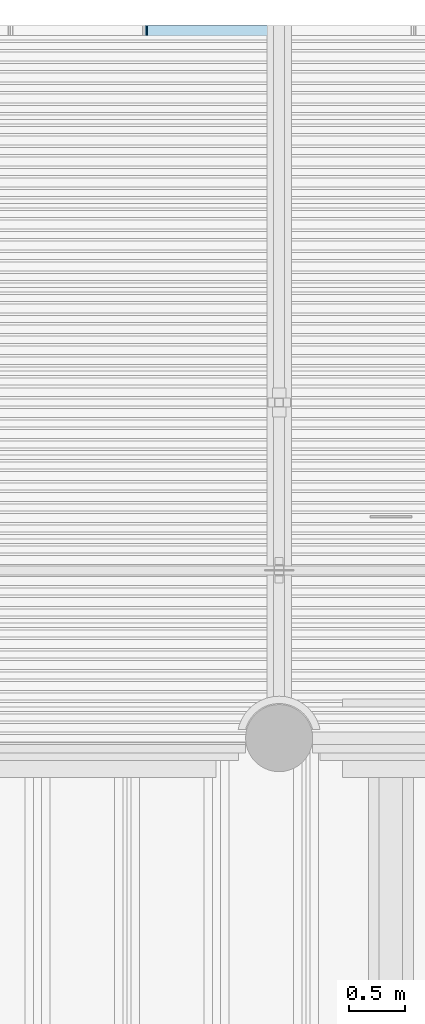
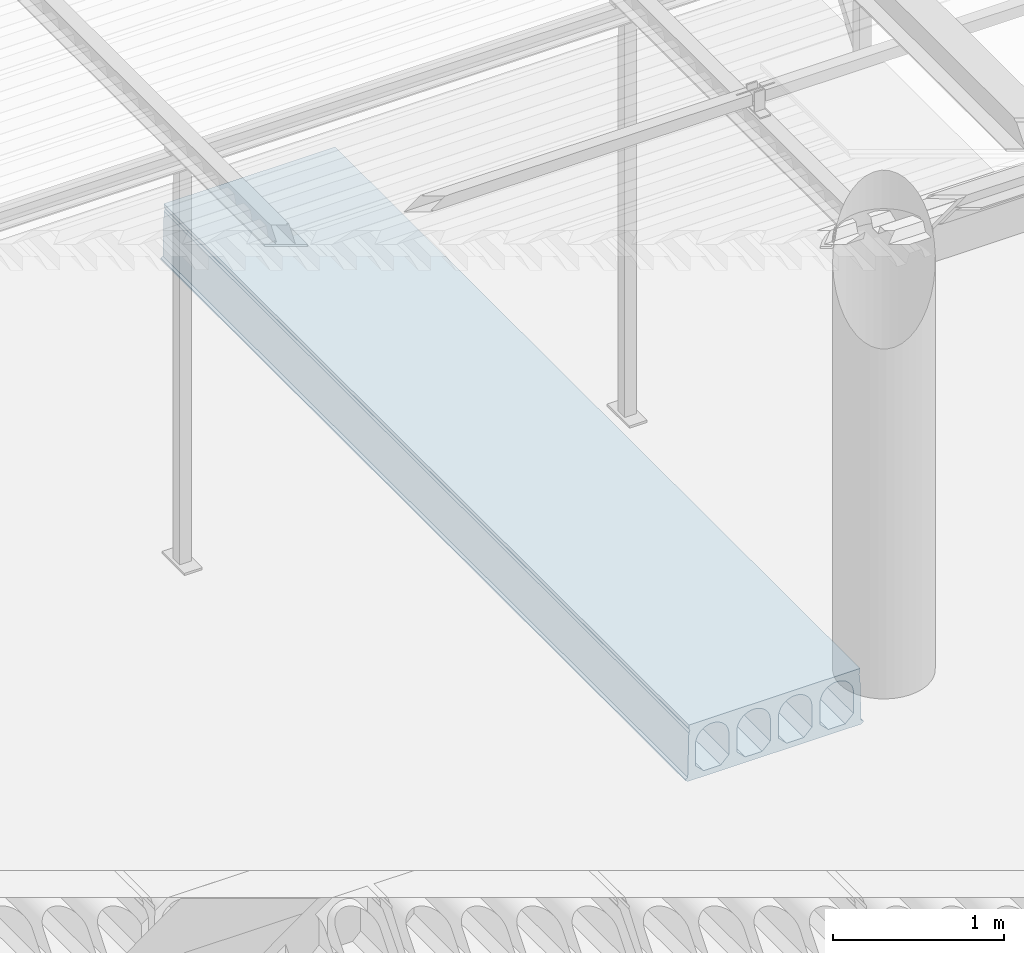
# One storey, part 93 of 98: 1 slab.
"""IFC2X3 building model written with IfcOpenShell, lengths in millimetres."""

import ifcopenshell
import ifcopenshell.guid

model = None  # the IFC model being written
_history = None  # IfcOwnerHistory: only IFC2X3 demands one
_inside = {}  # id of a spatial element -> (the spatial element, [elements in it])
_under = {}  # id of a project, library or spatial element -> (it, [spatial elements below it])
_declared = {}  # id of a project -> (the project, [libraries it declares])
_typed = {}  # id of a type object -> (the type object, [elements of that type])
_made_of = {}  # id of a material, layer set ... -> (it, [elements and type objects made of it])


def new_model(schema):
    """Start an empty IFC model of exactly this schema.

    Asked for "IFC4X3", IfcOpenShell would pick the latest addendum, in which some entities
    have other attributes; the version numbers below select the first issue.
    IFC2X3 requires an IfcOwnerHistory on every rooted entity: one is made here for all.
    """
    global model, _history
    if schema == "IFC4X3":
        model = ifcopenshell.file(schema_version=(4, 3, 0, 0))
    else:
        model = ifcopenshell.file(schema=schema)
    _inside.clear()
    _under.clear()
    _declared.clear()
    _typed.clear()
    _made_of.clear()
    _history = None
    if model.schema == "IFC2X3":
        org = make("IfcOrganization", Name="unknown")
        user = make(
            "IfcPersonAndOrganization",
            ThePerson=make("IfcPerson", FamilyName="unknown"),
            TheOrganization=org,
        )
        app = make(
            "IfcApplication",
            ApplicationDeveloper=org,
            Version="unknown",
            ApplicationFullName="unknown",
            ApplicationIdentifier="unknown",
        )
        _history = make(
            "IfcOwnerHistory",
            OwningUser=user,
            OwningApplication=app,
            ChangeAction="ADDED",
            CreationDate=0,
        )
    return model


def make(cls, **values):
    """One entity of the class cls with the attributes given. An attribute that is None is left unset."""
    return model.create_entity(
        cls, **{name: value for name, value in values.items() if value is not None}
    )


def entity(cls, *values):
    """Any entity or typed value of the class cls, its attributes in the order of the schema. None: left unset."""
    e = model.create_entity(cls)
    for i, value in enumerate(values):
        if value is not None:
            e[i] = value
    return e


def rooted(cls, **values):
    """An entity with a GlobalId (a new one), such as an element, a storey or a relation."""
    return make(cls, GlobalId=ifcopenshell.guid.new(), OwnerHistory=_history, **values)


def si_unit(unit_type, name, prefix=None):
    """IfcSIUnit, for example si_unit("LENGTHUNIT", "METRE", prefix="MILLI")."""
    return make("IfcSIUnit", UnitType=unit_type, Prefix=prefix, Name=name)


def converted_unit(unit_type, name, factor, base, dimensions=None, offset=None):
    """IfcConversionBasedUnit, such as the inch: factor (a typed value) times the base unit."""
    return make(
        "IfcConversionBasedUnit"
        if offset is None
        else "IfcConversionBasedUnitWithOffset",
        ConversionOffset=offset,
        Dimensions=None
        if dimensions is None
        else entity("IfcDimensionalExponents", *dimensions),
        UnitType=unit_type,
        Name=name,
        ConversionFactor=make(
            "IfcMeasureWithUnit", ValueComponent=factor, UnitComponent=base
        ),
    )


def derived_unit(unit_type, elements):
    """IfcDerivedUnit: a product of units, each with its exponent."""
    return make(
        "IfcDerivedUnit",
        Elements=[
            make("IfcDerivedUnitElement", Unit=unit, Exponent=power)
            for unit, power in elements
        ],
        UnitType=unit_type,
    )


def assignment(units):
    """IfcUnitAssignment: the units of a project."""
    return None if units is None else make("IfcUnitAssignment", Units=units)


def point(xyz):
    """IfcCartesianPoint."""
    return None if xyz is None else make("IfcCartesianPoint", Coordinates=xyz)


def direction(xyz):
    """IfcDirection."""
    return None if xyz is None else make("IfcDirection", DirectionRatios=xyz)


def frame(location, z_axis=None, x_axis=None):
    """IfcAxis2Placement3D, a coordinate frame: its origin and axes. An axis left out is left unset."""
    return make(
        "IfcAxis2Placement3D",
        Location=point(location),
        Axis=direction(z_axis),
        RefDirection=direction(x_axis),
    )


def origin_with_axes():
    """The frame at (0, 0, 0) with the z axis (0, 0, 1) and the x axis (1, 0, 0) written out."""
    return frame((0.0, 0.0, 0.0), z_axis=(0.0, 0.0, 1.0), x_axis=(1.0, 0.0, 0.0))


def place(relative_to, where):
    """IfcLocalPlacement: puts the frame where relative to a parent placement (None: the world)."""
    return make(
        "IfcLocalPlacement", PlacementRelTo=relative_to, RelativePlacement=where
    )


def context(
    kind, dimensions, precision=None, world=None, true_north=None, identifier=None
):
    """IfcGeometricRepresentationContext, for example the 3D "Model" context."""
    return make(
        "IfcGeometricRepresentationContext",
        ContextIdentifier=identifier,
        ContextType=kind,
        CoordinateSpaceDimension=dimensions,
        Precision=precision,
        WorldCoordinateSystem=world,
        TrueNorth=true_north,
    )


def subcontext(parent, identifier, kind, view, scale=None):
    """IfcGeometricRepresentationSubContext, for example "Body" below "Model"."""
    return make(
        "IfcGeometricRepresentationSubContext",
        ContextIdentifier=identifier,
        ContextType=kind,
        ParentContext=parent,
        TargetScale=scale,
        TargetView=view,
    )


def project(units=None, contexts=None):
    """IfcProject with its units and contexts."""
    return rooted(
        "IfcProject",
        Name="project",
        RepresentationContexts=contexts,
        UnitsInContext=assignment(units),
    )


def spatial(cls, under=None, at=None, **own):
    """A site, building, storey or space (cls), placed at a placement, below another one or the project."""
    s = rooted(cls, ObjectPlacement=at, **own)
    if under is not None:
        _under.setdefault(under.id(), (under, []))[1].append(s)
    return s


def faces_of(points, faces, orient=None, outer=None):
    """IfcFace entities. A face is a list of loops; a loop is a list of indices into points, from 0.

    orient and outer hold one flag for each loop. By default every Orientation is true, the
    first loop of a face is its IfcFaceOuterBound and the others are IfcFaceBound.
    """
    made = []
    for i, loops in enumerate(faces):
        bounds = []
        for j, loop in enumerate(loops):
            is_outer = j == 0 if outer is None else outer[i][j]
            bounds.append(
                make(
                    "IfcFaceOuterBound" if is_outer else "IfcFaceBound",
                    Bound=make("IfcPolyLoop", Polygon=[points[k] for k in loop]),
                    Orientation=True if orient is None else orient[i][j],
                )
            )
        made.append(make("IfcFace", Bounds=bounds))
    return made


def faceted_brep(points, faces, orient=None, outer=None, voids=None):
    """IfcFacetedBrep: a solid bounded by flat faces; with voids (closed shells), ...WithVoids."""
    shared = [point(p) for p in points]
    hull = make("IfcClosedShell", CfsFaces=faces_of(shared, faces, orient, outer))
    if voids is None:
        return make("IfcFacetedBrep", Outer=hull)
    return make(
        "IfcFacetedBrepWithVoids",
        Outer=hull,
        Voids=[
            make(cls, CfsFaces=faces_of(shared, fs, o, b)) for cls, fs, o, b in voids
        ],
    )


def shape(context_of_items, identifier, shape_type, items):
    """IfcShapeRepresentation: the items that make up one representation, for example the "Body"."""
    return make(
        "IfcShapeRepresentation",
        ContextOfItems=context_of_items,
        RepresentationIdentifier=identifier,
        RepresentationType=shape_type,
        Items=items,
    )


def made_of(thing, what):
    """Note that an element or type object is made of a material, layer set ...; save() writes the relation."""
    if what is not None:
        _made_of.setdefault(what.id(), (what, []))[1].append(thing)
    return thing


def type_object(cls, material=None, **own):
    """A type object (cls), such as IfcWallType, which elements share."""
    return made_of(rooted(cls, **own), material)


def element(
    cls,
    number,
    at=None,
    inside=None,
    cuts=None,
    type_object=None,
    material=None,
    context=None,
    identifier="Body",
    shape_type=None,
    held_by="IfcProductDefinitionShape",
    body=None,
    shapes=None,
    **own,
):
    """One element of the class cls, such as IfcWall. Its Tag is "e" and its number.

    at: its placement. inside: the storey or other place that contains it. cuts: it is an
    opening in that element (IfcRelVoidsElement). A single representation is given by context,
    identifier, shape_type and body (its items); several are given by shapes. held_by: the class
    of the entity that holds the representations. save() writes the other relations.
    """
    e = rooted(cls, Tag="e%d" % number, ObjectPlacement=at, **own)
    if body is not None:
        shapes = [shape(context, identifier, shape_type, body)]
    if shapes is not None:
        e.Representation = make(held_by, Representations=shapes)
    if inside is not None:
        _inside.setdefault(inside.id(), (inside, []))[1].append(e)
    if cuts is not None:
        rooted(
            "IfcRelVoidsElement", RelatingBuildingElement=cuts, RelatedOpeningElement=e
        )
    if type_object is not None:
        _typed.setdefault(type_object.id(), (type_object, []))[1].append(e)
    return made_of(e, material)


def aggregate(whole, parts):
    """IfcRelAggregates: a whole, such as a stair, and the parts it consists of."""
    return rooted("IfcRelAggregates", RelatingObject=whole, RelatedObjects=parts)


def save(model, path):
    """Write the relations noted so far, then the file.

    IfcRelAggregates (storeys below a building ...), IfcRelContainedInSpatialStructure (elements
    in a storey), IfcRelDefinesByType, IfcRelAssociatesMaterial and IfcRelDeclares: one each for
    every whole, place, type object, material and project.
    """
    for whole, parts in _under.values():
        aggregate(whole, parts)
    for where, things in _inside.values():
        rooted(
            "IfcRelContainedInSpatialStructure",
            RelatedElements=things,
            RelatingStructure=where,
        )
    for kind, things in _typed.values():
        rooted("IfcRelDefinesByType", RelatedObjects=things, RelatingType=kind)
    for what, things in _made_of.values():
        rooted("IfcRelAssociatesMaterial", RelatedObjects=things, RelatingMaterial=what)
    for by, libraries in _declared.values():
        rooted("IfcRelDeclares", RelatingContext=by, RelatedDefinitions=libraries)
    model.write(path)


model = new_model("IFC2X3")

# Units and contexts
model_context = context("Model", 3, precision=0.01, world=frame((0.0, 4.29681676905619e-09, 0.0)), true_north=direction((4.01073788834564e-13, 1.0)))
plan_context = context("Plan", 3, precision=0.01, world=frame((0.0, 4.29681676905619e-09, 0.0)), true_north=direction((4.01073788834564e-13, 1.0)))
body_context = subcontext(model_context, "Body", "Model", "MODEL_VIEW")
ifc_project = project(units=[converted_unit("PLANEANGLEUNIT", "DEGREE", entity("IfcPositiveLengthMeasure", 0.0174532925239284), si_unit("PLANEANGLEUNIT", "RADIAN"), dimensions=[0, 0, 0, 0, 0, 0, 0]), si_unit("AREAUNIT", "SQUARE_METRE"), si_unit("LENGTHUNIT", "METRE", prefix="MILLI"), si_unit("MASSUNIT", "GRAM", prefix="KILO"), si_unit("POWERUNIT", "WATT"), si_unit("PRESSUREUNIT", "PASCAL"), si_unit("FORCEUNIT", "NEWTON", prefix="KILO"), si_unit("ELECTRICCURRENTUNIT", "AMPERE"), si_unit("THERMODYNAMICTEMPERATUREUNIT", "DEGREE_CELSIUS"), si_unit("TIMEUNIT", "SECOND"), si_unit("VOLUMEUNIT", "CUBIC_METRE"), derived_unit("LINEARVELOCITYUNIT", [(si_unit("LENGTHUNIT", "METRE"), 1), (si_unit("TIMEUNIT", "SECOND"), -1)]), derived_unit("VOLUMETRICFLOWRATEUNIT", [(si_unit("VOLUMEUNIT", "CUBIC_METRE"), 1), (si_unit("TIMEUNIT", "SECOND"), -1)]), derived_unit("THERMALTRANSMITTANCEUNIT", [(si_unit("POWERUNIT", "WATT"), 1), (si_unit("THERMODYNAMICTEMPERATUREUNIT", "KELVIN"), -1), (si_unit("AREAUNIT", "SQUARE_METRE"), -1)])], contexts=[model_context, plan_context])

# Site, building, storey
site_placement = place(None, frame((0.0, -4.29681676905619e-09, 0.0), z_axis=(0.0, 0.0, 1.0), x_axis=(1.0, 0.0, 0.0)))
site = spatial("IfcSite", under=ifc_project, at=site_placement, Name="Gardermoen", CompositionType="ELEMENT")
building_placement = place(site_placement, frame((0.0, 4.29681676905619e-09, 0.0), z_axis=(0.0, 0.0, 1.0), x_axis=(1.0, 0.0, 0.0)))
building = spatial("IfcBuilding", under=site, at=building_placement, Name="TS", CompositionType="ELEMENT")
storey_placement = place(building_placement, origin_with_axes())
storey = spatial("IfcBuildingStorey", under=building, at=storey_placement, Name="D", CompositionType="ELEMENT", Elevation=0.0)

# Slab
slab_type = type_object("IfcSlabType", Name="HD400", PredefinedType="NOTDEFINED")
slab_placement = place(storey_placement, frame((528400.000234, 423259.995625, 203600.0), z_axis=(0.0, 0.0, 1.0), x_axis=(0.0, -1.0, 0.0)))
element("IfcSlab", 1, at=slab_placement, inside=storey, type_object=slab_type, Name="HULLDEKKE", ObjectType="HD400", PredefinedType="FLOOR", context=body_context, shape_type="Brep", body=[
    faceted_brep([(2389.80417159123, -577.5, 175.0), (2389.80417159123, -577.5, 200.0), (8520.00875000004, -577.5, 200.0), (8520.00875000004, -577.5, 175.0), (2389.80417159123, -570.0, 160.0), (8520.00875000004, -570.0, 160.0), (2389.80417159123, -577.5, 145.0), (8520.00875000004, -577.5, 145.0), (2389.80417159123, -585.0, -170.0), (8520.00875000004, -585.0, -170.0), (2389.80417159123, -600.0, -180.0), (8520.00875000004, -600.0, -180.0), (2389.80417159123, -600.0, -190.0), (8520.00875000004, -600.0, -190.0), (2389.80417159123, -583.380004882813, -200.0), (8520.00875000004, -583.380004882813, -200.0), (2389.80417159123, 583.380004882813, -200.0), (8520.00875000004, 583.380004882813, -200.0), (2389.80417159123, 600.0, -190.0), (8520.00875000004, 600.0, -190.0), (2389.80417159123, 600.0, -180.0), (8520.00875000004, 600.0, -180.0), (2389.80417159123, 585.0, -170.0), (8520.00875000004, 585.0, -170.0), (2389.80417159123, 577.5, 145.0), (8520.00875000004, 577.5, 145.0), (2389.80417159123, 570.0, 160.0), (8520.00875000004, 570.0, 160.0), (2389.80417159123, 577.5, 175.0), (8520.00875000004, 577.5, 175.0), (2389.80417159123, 577.5, 200.0), (8520.00875000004, 577.5, 200.0), (2389.80417159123, -362.5, -160.0), (2389.80417159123, -307.5, -105.0), (8520.00875000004, -307.5, -105.0), (8520.00875000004, -362.5, -160.0), (2389.80417159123, -307.5, 47.5), (8520.00875000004, -307.5, 47.5), (2389.80417159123, -307.884244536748, 56.7901763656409), (8520.00875000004, -307.884244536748, 56.7901763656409), (2389.80417159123, -309.034353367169, 66.0168914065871), (8520.00875000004, -309.034353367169, 66.0168914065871), (2389.80417159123, -310.942470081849, 75.1171173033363), (8520.00875000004, -310.942470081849, 75.1171173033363), (2389.80417159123, -313.595560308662, 84.028690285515), (8520.00875000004, -313.595560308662, 84.028690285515), (2389.80417159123, -316.975500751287, 92.6907352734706), (8520.00875000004, -316.975500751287, 92.6907352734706), (2389.80417159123, -321.059202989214, 101.044081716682), (8520.00875000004, -321.059202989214, 101.044081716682), (2389.80417159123, -325.818771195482, 109.031667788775), (8520.00875000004, -325.818771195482, 109.031667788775), (2389.80417159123, -331.221692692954, 116.598930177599), (8520.00875000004, -331.221692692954, 116.598930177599), (2389.80417159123, -337.231060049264, 123.694176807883), (8520.00875000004, -337.231060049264, 123.694176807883), (2389.80417159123, -343.805823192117, 130.268939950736), (8520.00875000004, -343.805823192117, 130.268939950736), (2389.80417159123, -350.901069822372, 136.278307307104), (8520.00875000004, -350.901069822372, 136.278307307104), (2389.80417159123, -358.468332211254, 141.681228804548), (8520.00875000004, -358.468332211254, 141.681228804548), (2389.80417159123, -366.455918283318, 146.440797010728), (8520.00875000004, -366.455918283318, 146.440797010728), (2389.80417159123, -374.809264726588, 150.524499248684), (8520.00875000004, -374.809264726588, 150.524499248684), (2389.80417159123, -383.471309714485, 153.904439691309), (8520.00875000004, -383.471309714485, 153.904439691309), (2389.80417159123, -392.382882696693, 156.55752991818), (8520.00875000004, -392.382882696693, 156.55752991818), (2389.80417159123, -401.483108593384, 158.465646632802), (8520.00875000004, -401.483108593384, 158.465646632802), (2389.80417159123, -410.709823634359, 159.615755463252), (8520.00875000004, -410.709823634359, 159.615755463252), (2389.80417159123, -420.0, 160.0), (8520.00875000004, -420.0, 160.0), (2389.80417159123, -429.290176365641, 159.615755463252), (8520.00875000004, -429.290176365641, 159.615755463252), (2389.80417159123, -438.516891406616, 158.465646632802), (8520.00875000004, -438.516891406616, 158.465646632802), (2389.80417159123, -447.617117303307, 156.55752991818), (8520.00875000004, -447.617117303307, 156.55752991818), (2389.80417159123, -456.528690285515, 153.904439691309), (8520.00875000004, -456.528690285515, 153.904439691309), (2389.80417159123, -465.190735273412, 150.524499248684), (8520.00875000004, -465.190735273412, 150.524499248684), (2389.80417159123, -473.544081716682, 146.440797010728), (8520.00875000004, -473.544081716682, 146.440797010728), (2389.80417159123, -481.531667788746, 141.681228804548), (8520.00875000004, -481.531667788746, 141.681228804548), (2389.80417159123, -489.098930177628, 136.278307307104), (8520.00875000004, -489.098930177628, 136.278307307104), (2389.80417159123, -496.194176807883, 130.268939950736), (8520.00875000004, -496.194176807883, 130.268939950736), (2389.80417159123, -502.768939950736, 123.694176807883), (8520.00875000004, -502.768939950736, 123.694176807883), (2389.80417159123, -508.778307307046, 116.598930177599), (8520.00875000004, -508.778307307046, 116.598930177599), (2389.80417159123, -514.181228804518, 109.031667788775), (8520.00875000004, -514.181228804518, 109.031667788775), (2389.80417159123, -518.940797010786, 101.044081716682), (8520.00875000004, -518.940797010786, 101.044081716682), (2389.80417159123, -523.024499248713, 92.6907352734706), (8520.00875000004, -523.024499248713, 92.6907352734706), (2389.80417159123, -526.404439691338, 84.028690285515), (8520.00875000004, -526.404439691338, 84.028690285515), (2389.80417159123, -529.057529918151, 75.1171173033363), (8520.00875000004, -529.057529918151, 75.1171173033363), (2389.80417159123, -530.965646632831, 66.0168914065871), (8520.00875000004, -530.965646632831, 66.0168914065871), (2389.80417159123, -532.115755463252, 56.7901763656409), (8520.00875000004, -532.115755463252, 56.7901763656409), (2389.80417159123, -532.5, 47.5), (8520.00875000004, -532.5, 47.5), (2389.80417159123, -532.5, -105.0), (8520.00875000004, -532.5, -105.0), (2389.80417159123, -477.5, -160.0), (8520.00875000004, -477.5, -160.0), (2389.80417159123, 197.5, -160.0), (2389.80417159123, 252.5, -105.0), (8520.00875000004, 252.5, -105.0), (8520.00875000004, 197.5, -160.0), (2389.80417159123, 252.5, 47.5), (8520.00875000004, 252.5, 47.5), (2389.80417159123, 252.115755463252, 56.7901763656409), (8520.00875000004, 252.115755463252, 56.7901763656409), (2389.80417159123, 250.965646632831, 66.0168914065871), (8520.00875000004, 250.965646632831, 66.0168914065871), (2389.80417159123, 249.057529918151, 75.1171173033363), (8520.00875000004, 249.057529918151, 75.1171173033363), (2389.80417159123, 246.404439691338, 84.028690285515), (8520.00875000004, 246.404439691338, 84.028690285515), (2389.80417159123, 243.024499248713, 92.6907352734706), (8520.00875000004, 243.024499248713, 92.6907352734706), (2389.80417159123, 238.940797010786, 101.044081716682), (8520.00875000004, 238.940797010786, 101.044081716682), (2389.80417159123, 234.181228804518, 109.031667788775), (8520.00875000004, 234.181228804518, 109.031667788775), (2389.80417159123, 228.778307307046, 116.598930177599), (8520.00875000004, 228.778307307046, 116.598930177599), (2389.80417159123, 222.768939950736, 123.694176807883), (8520.00875000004, 222.768939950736, 123.694176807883), (2389.80417159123, 216.194176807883, 130.268939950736), (8520.00875000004, 216.194176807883, 130.268939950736), (2389.80417159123, 209.098930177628, 136.278307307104), (8520.00875000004, 209.098930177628, 136.278307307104), (2389.80417159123, 201.531667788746, 141.681228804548), (8520.00875000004, 201.531667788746, 141.681228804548), (2389.80417159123, 193.544081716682, 146.440797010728), (8520.00875000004, 193.544081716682, 146.440797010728), (2389.80417159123, 185.190735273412, 150.524499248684), (8520.00875000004, 185.190735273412, 150.524499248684), (2389.80417159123, 176.528690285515, 153.904439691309), (8520.00875000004, 176.528690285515, 153.904439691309), (2389.80417159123, 167.617117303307, 156.55752991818), (8520.00875000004, 167.617117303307, 156.55752991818), (2389.80417159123, 158.516891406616, 158.465646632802), (8520.00875000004, 158.516891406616, 158.465646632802), (2389.80417159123, 149.290176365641, 159.615755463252), (8520.00875000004, 149.290176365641, 159.615755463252), (2389.80417159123, 140.0, 160.0), (8520.00875000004, 140.0, 160.0), (2389.80417159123, 130.709823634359, 159.615755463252), (8520.00875000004, 130.709823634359, 159.615755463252), (2389.80417159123, 121.483108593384, 158.465646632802), (8520.00875000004, 121.483108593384, 158.465646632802), (2389.80417159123, 112.382882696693, 156.55752991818), (8520.00875000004, 112.382882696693, 156.55752991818), (2389.80417159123, 103.471309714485, 153.904439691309), (8520.00875000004, 103.471309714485, 153.904439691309), (2389.80417159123, 94.8092647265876, 150.524499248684), (8520.00875000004, 94.8092647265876, 150.524499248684), (2389.80417159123, 86.4559182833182, 146.440797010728), (8520.00875000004, 86.4559182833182, 146.440797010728), (2389.80417159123, 78.4683322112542, 141.681228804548), (8520.00875000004, 78.4683322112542, 141.681228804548), (2389.80417159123, 70.9010698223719, 136.278307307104), (8520.00875000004, 70.9010698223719, 136.278307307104), (2389.80417159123, 63.8058231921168, 130.268939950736), (8520.00875000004, 63.8058231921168, 130.268939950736), (2389.80417159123, 57.2310600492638, 123.694176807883), (8520.00875000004, 57.2310600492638, 123.694176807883), (2389.80417159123, 51.2216926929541, 116.598930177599), (8520.00875000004, 51.2216926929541, 116.598930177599), (2389.80417159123, 45.8187711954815, 109.031667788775), (8520.00875000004, 45.8187711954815, 109.031667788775), (2389.80417159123, 41.0592029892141, 101.044081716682), (8520.00875000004, 41.0592029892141, 101.044081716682), (2389.80417159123, 36.9755007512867, 92.6907352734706), (8520.00875000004, 36.9755007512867, 92.6907352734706), (2389.80417159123, 33.5955603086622, 84.028690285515), (8520.00875000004, 33.5955603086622, 84.028690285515), (2389.80417159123, 30.942470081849, 75.1171173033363), (8520.00875000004, 30.942470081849, 75.1171173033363), (2389.80417159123, 29.0343533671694, 66.0168914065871), (8520.00875000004, 29.0343533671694, 66.0168914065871), (2389.80417159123, 27.8842445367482, 56.7901763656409), (8520.00875000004, 27.8842445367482, 56.7901763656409), (2389.80417159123, 27.5, 47.5), (8520.00875000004, 27.5, 47.5), (2389.80417159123, 27.5, -105.0), (8520.00875000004, 27.5, -105.0), (2389.80417159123, 82.5, -160.0), (8520.00875000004, 82.5, -160.0), (2389.80417159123, 477.5, -160.0), (2389.80417159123, 532.5, -105.0), (8520.00875000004, 532.5, -105.0), (8520.00875000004, 477.5, -160.0), (2389.80417159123, 532.5, 47.5), (8520.00875000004, 532.5, 47.5), (2389.80417159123, 532.115755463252, 56.7901763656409), (8520.00875000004, 532.115755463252, 56.7901763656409), (2389.80417159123, 530.965646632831, 66.0168914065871), (8520.00875000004, 530.965646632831, 66.0168914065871), (2389.80417159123, 529.057529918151, 75.1171173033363), (8520.00875000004, 529.057529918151, 75.1171173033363), (2389.80417159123, 526.404439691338, 84.028690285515), (8520.00875000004, 526.404439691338, 84.028690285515), (2389.80417159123, 523.024499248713, 92.6907352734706), (8520.00875000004, 523.024499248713, 92.6907352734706), (2389.80417159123, 518.940797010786, 101.044081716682), (8520.00875000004, 518.940797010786, 101.044081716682), (2389.80417159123, 514.181228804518, 109.031667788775), (8520.00875000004, 514.181228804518, 109.031667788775), (2389.80417159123, 508.778307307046, 116.598930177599), (8520.00875000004, 508.778307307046, 116.598930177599), (2389.80417159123, 502.768939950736, 123.694176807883), (8520.00875000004, 502.768939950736, 123.694176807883), (2389.80417159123, 496.194176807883, 130.268939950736), (8520.00875000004, 496.194176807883, 130.268939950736), (2389.80417159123, 489.098930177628, 136.278307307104), (8520.00875000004, 489.098930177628, 136.278307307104), (2389.80417159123, 481.531667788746, 141.681228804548), (8520.00875000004, 481.531667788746, 141.681228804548), (2389.80417159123, 473.544081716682, 146.440797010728), (8520.00875000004, 473.544081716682, 146.440797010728), (2389.80417159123, 465.190735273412, 150.524499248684), (8520.00875000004, 465.190735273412, 150.524499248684), (2389.80417159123, 456.528690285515, 153.904439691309), (8520.00875000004, 456.528690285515, 153.904439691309), (2389.80417159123, 447.617117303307, 156.55752991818), (8520.00875000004, 447.617117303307, 156.55752991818), (2389.80417159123, 438.516891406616, 158.465646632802), (8520.00875000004, 438.516891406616, 158.465646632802), (2389.80417159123, 429.290176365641, 159.615755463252), (8520.00875000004, 429.290176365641, 159.615755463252), (2389.80417159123, 420.0, 160.0), (8520.00875000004, 420.0, 160.0), (2389.80417159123, 410.709823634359, 159.615755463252), (8520.00875000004, 410.709823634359, 159.615755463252), (2389.80417159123, 401.483108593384, 158.465646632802), (8520.00875000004, 401.483108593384, 158.465646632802), (2389.80417159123, 392.382882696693, 156.55752991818), (8520.00875000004, 392.382882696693, 156.55752991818), (2389.80417159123, 383.471309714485, 153.904439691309), (8520.00875000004, 383.471309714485, 153.904439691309), (2389.80417159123, 374.809264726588, 150.524499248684), (8520.00875000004, 374.809264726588, 150.524499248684), (2389.80417159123, 366.455918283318, 146.440797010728), (8520.00875000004, 366.455918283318, 146.440797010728), (2389.80417159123, 358.468332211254, 141.681228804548), (8520.00875000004, 358.468332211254, 141.681228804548), (2389.80417159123, 350.901069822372, 136.278307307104), (8520.00875000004, 350.901069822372, 136.278307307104), (2389.80417159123, 343.805823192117, 130.268939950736), (8520.00875000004, 343.805823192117, 130.268939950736), (2389.80417159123, 337.231060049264, 123.694176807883), (8520.00875000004, 337.231060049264, 123.694176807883), (2389.80417159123, 331.221692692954, 116.598930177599), (8520.00875000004, 331.221692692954, 116.598930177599), (2389.80417159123, 325.818771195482, 109.031667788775), (8520.00875000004, 325.818771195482, 109.031667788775), (2389.80417159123, 321.059202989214, 101.044081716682), (8520.00875000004, 321.059202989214, 101.044081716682), (2389.80417159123, 316.975500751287, 92.6907352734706), (8520.00875000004, 316.975500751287, 92.6907352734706), (2389.80417159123, 313.595560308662, 84.028690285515), (8520.00875000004, 313.595560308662, 84.028690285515), (2389.80417159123, 310.942470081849, 75.1171173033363), (8520.00875000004, 310.942470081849, 75.1171173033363), (2389.80417159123, 309.034353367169, 66.0168914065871), (8520.00875000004, 309.034353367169, 66.0168914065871), (2389.80417159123, 307.884244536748, 56.7901763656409), (8520.00875000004, 307.884244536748, 56.7901763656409), (2389.80417159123, 307.5, 47.5), (8520.00875000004, 307.5, 47.5), (2389.80417159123, 307.5, -105.0), (8520.00875000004, 307.5, -105.0), (2389.80417159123, 362.5, -160.0), (8520.00875000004, 362.5, -160.0), (8520.00875000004, -197.5, -160.0), (8520.00875000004, -82.5, -160.0), (8520.00875000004, -27.5, -105.0), (8520.00875000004, -27.5, 47.5), (8520.00875000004, -27.8842445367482, 56.7901763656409), (8520.00875000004, -29.0343533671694, 66.0168914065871), (8520.00875000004, -30.942470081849, 75.1171173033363), (8520.00875000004, -33.5955603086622, 84.028690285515), (8520.00875000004, -36.9755007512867, 92.6907352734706), (8520.00875000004, -41.0592029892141, 101.044081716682), (8520.00875000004, -45.8187711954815, 109.031667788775), (8520.00875000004, -51.2216926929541, 116.598930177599), (8520.00875000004, -57.2310600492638, 123.694176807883), (8520.00875000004, -63.8058231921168, 130.268939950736), (8520.00875000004, -70.9010698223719, 136.278307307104), (8520.00875000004, -78.4683322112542, 141.681228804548), (8520.00875000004, -86.4559182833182, 146.440797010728), (8520.00875000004, -94.8092647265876, 150.524499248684), (8520.00875000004, -103.471309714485, 153.904439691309), (8520.00875000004, -112.382882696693, 156.55752991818), (8520.00875000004, -121.483108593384, 158.465646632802), (8520.00875000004, -130.709823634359, 159.615755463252), (8520.00875000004, -140.0, 160.0), (8520.00875000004, -149.290176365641, 159.615755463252), (8520.00875000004, -158.516891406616, 158.465646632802), (8520.00875000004, -167.617117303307, 156.55752991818), (8520.00875000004, -176.528690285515, 153.904439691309), (8520.00875000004, -185.190735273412, 150.524499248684), (8520.00875000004, -193.544081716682, 146.440797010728), (8520.00875000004, -201.531667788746, 141.681228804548), (8520.00875000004, -209.098930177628, 136.278307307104), (8520.00875000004, -216.194176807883, 130.268939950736), (8520.00875000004, -222.768939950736, 123.694176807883), (8520.00875000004, -228.778307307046, 116.598930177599), (8520.00875000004, -234.181228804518, 109.031667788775), (8520.00875000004, -238.940797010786, 101.044081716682), (8520.00875000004, -243.024499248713, 92.6907352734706), (8520.00875000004, -246.404439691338, 84.028690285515), (8520.00875000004, -249.057529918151, 75.1171173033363), (8520.00875000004, -250.965646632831, 66.0168914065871), (8520.00875000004, -252.115755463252, 56.7901763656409), (8520.00875000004, -252.5, 47.5), (8520.00875000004, -252.5, -105.0), (2389.80417159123, -27.5, -105.0), (2389.80417159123, -27.5, 47.5), (2389.80417159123, -27.8842445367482, 56.7901763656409), (2389.80417159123, -29.0343533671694, 66.0168914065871), (2389.80417159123, -30.942470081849, 75.1171173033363), (2389.80417159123, -33.5955603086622, 84.028690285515), (2389.80417159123, -36.9755007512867, 92.6907352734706), (2389.80417159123, -41.0592029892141, 101.044081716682), (2389.80417159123, -45.8187711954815, 109.031667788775), (2389.80417159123, -51.2216926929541, 116.598930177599), (2389.80417159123, -57.2310600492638, 123.694176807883), (2389.80417159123, -63.8058231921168, 130.268939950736), (2389.80417159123, -70.9010698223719, 136.278307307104), (2389.80417159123, -78.4683322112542, 141.681228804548), (2389.80417159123, -86.4559182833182, 146.440797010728), (2389.80417159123, -94.8092647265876, 150.524499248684), (2389.80417159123, -103.471309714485, 153.904439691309), (2389.80417159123, -112.382882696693, 156.55752991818), (2389.80417159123, -121.483108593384, 158.465646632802), (2389.80417159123, -130.709823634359, 159.615755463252), (2389.80417159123, -140.0, 160.0), (2389.80417159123, -149.290176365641, 159.615755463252), (2389.80417159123, -158.516891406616, 158.465646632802), (2389.80417159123, -167.617117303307, 156.55752991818), (2389.80417159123, -176.528690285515, 153.904439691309), (2389.80417159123, -185.190735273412, 150.524499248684), (2389.80417159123, -193.544081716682, 146.440797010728), (2389.80417159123, -201.531667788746, 141.681228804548), (2389.80417159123, -209.098930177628, 136.278307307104), (2389.80417159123, -216.194176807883, 130.268939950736), (2389.80417159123, -222.768939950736, 123.694176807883), (2389.80417159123, -228.778307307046, 116.598930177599), (2389.80417159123, -234.181228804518, 109.031667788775), (2389.80417159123, -238.940797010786, 101.044081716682), (2389.80417159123, -243.024499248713, 92.6907352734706), (2389.80417159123, -246.404439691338, 84.028690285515), (2389.80417159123, -249.057529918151, 75.1171173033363), (2389.80417159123, -250.965646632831, 66.0168914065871), (2389.80417159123, -252.115755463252, 56.7901763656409), (2389.80417159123, -252.5, 47.5), (2389.80417159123, -252.5, -105.0), (2389.80417159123, -82.5, -160.0), (2389.80417159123, -197.5, -160.0)], [[[0, 1, 2, 3]], [[4, 0, 3, 5]], [[6, 4, 5, 7]], [[8, 6, 7, 9]], [[10, 8, 9, 11]], [[12, 10, 11, 13]], [[14, 12, 13, 15]], [[16, 14, 15, 17]], [[18, 16, 17, 19]], [[20, 18, 19, 21]], [[22, 20, 21, 23]], [[24, 22, 23, 25]], [[26, 24, 25, 27]], [[28, 26, 27, 29]], [[30, 28, 29, 31]], [[1, 30, 31, 2]], [[32, 33, 34, 35]], [[33, 36, 37, 34]], [[36, 38, 39, 37]], [[38, 40, 41, 39]], [[40, 42, 43, 41]], [[42, 44, 45, 43]], [[44, 46, 47, 45]], [[46, 48, 49, 47]], [[48, 50, 51, 49]], [[50, 52, 53, 51]], [[52, 54, 55, 53]], [[54, 56, 57, 55]], [[56, 58, 59, 57]], [[58, 60, 61, 59]], [[60, 62, 63, 61]], [[62, 64, 65, 63]], [[64, 66, 67, 65]], [[66, 68, 69, 67]], [[68, 70, 71, 69]], [[70, 72, 73, 71]], [[72, 74, 75, 73]], [[74, 76, 77, 75]], [[76, 78, 79, 77]], [[78, 80, 81, 79]], [[80, 82, 83, 81]], [[82, 84, 85, 83]], [[84, 86, 87, 85]], [[86, 88, 89, 87]], [[88, 90, 91, 89]], [[90, 92, 93, 91]], [[92, 94, 95, 93]], [[94, 96, 97, 95]], [[96, 98, 99, 97]], [[98, 100, 101, 99]], [[100, 102, 103, 101]], [[102, 104, 105, 103]], [[104, 106, 107, 105]], [[106, 108, 109, 107]], [[108, 110, 111, 109]], [[110, 112, 113, 111]], [[112, 114, 115, 113]], [[114, 116, 117, 115]], [[116, 32, 35, 117]], [[118, 119, 120, 121]], [[119, 122, 123, 120]], [[122, 124, 125, 123]], [[124, 126, 127, 125]], [[126, 128, 129, 127]], [[128, 130, 131, 129]], [[130, 132, 133, 131]], [[132, 134, 135, 133]], [[134, 136, 137, 135]], [[136, 138, 139, 137]], [[138, 140, 141, 139]], [[140, 142, 143, 141]], [[142, 144, 145, 143]], [[144, 146, 147, 145]], [[146, 148, 149, 147]], [[148, 150, 151, 149]], [[150, 152, 153, 151]], [[152, 154, 155, 153]], [[154, 156, 157, 155]], [[156, 158, 159, 157]], [[158, 160, 161, 159]], [[160, 162, 163, 161]], [[162, 164, 165, 163]], [[164, 166, 167, 165]], [[166, 168, 169, 167]], [[168, 170, 171, 169]], [[170, 172, 173, 171]], [[172, 174, 175, 173]], [[174, 176, 177, 175]], [[176, 178, 179, 177]], [[178, 180, 181, 179]], [[180, 182, 183, 181]], [[182, 184, 185, 183]], [[184, 186, 187, 185]], [[186, 188, 189, 187]], [[188, 190, 191, 189]], [[190, 192, 193, 191]], [[192, 194, 195, 193]], [[194, 196, 197, 195]], [[196, 198, 199, 197]], [[198, 200, 201, 199]], [[200, 202, 203, 201]], [[202, 118, 121, 203]], [[204, 205, 206, 207]], [[205, 208, 209, 206]], [[208, 210, 211, 209]], [[210, 212, 213, 211]], [[212, 214, 215, 213]], [[214, 216, 217, 215]], [[216, 218, 219, 217]], [[218, 220, 221, 219]], [[220, 222, 223, 221]], [[222, 224, 225, 223]], [[224, 226, 227, 225]], [[226, 228, 229, 227]], [[228, 230, 231, 229]], [[230, 232, 233, 231]], [[232, 234, 235, 233]], [[234, 236, 237, 235]], [[236, 238, 239, 237]], [[238, 240, 241, 239]], [[240, 242, 243, 241]], [[242, 244, 245, 243]], [[244, 246, 247, 245]], [[246, 248, 249, 247]], [[248, 250, 251, 249]], [[250, 252, 253, 251]], [[252, 254, 255, 253]], [[254, 256, 257, 255]], [[256, 258, 259, 257]], [[258, 260, 261, 259]], [[260, 262, 263, 261]], [[262, 264, 265, 263]], [[264, 266, 267, 265]], [[266, 268, 269, 267]], [[268, 270, 271, 269]], [[270, 272, 273, 271]], [[272, 274, 275, 273]], [[274, 276, 277, 275]], [[276, 278, 279, 277]], [[278, 280, 281, 279]], [[280, 282, 283, 281]], [[282, 284, 285, 283]], [[284, 286, 287, 285]], [[286, 288, 289, 287]], [[288, 204, 207, 289]], [[21, 19, 17, 15, 13, 11, 9, 7, 5, 3, 2, 31, 29, 27, 25, 23], [289, 207, 206, 209, 211, 213, 215, 217, 219, 221, 223, 225, 227, 229, 231, 233, 235, 237, 239, 241, 243, 245, 247, 249, 251, 253, 255, 257, 259, 261, 263, 265, 267, 269, 271, 273, 275, 277, 279, 281, 283, 285, 287], [203, 121, 120, 123, 125, 127, 129, 131, 133, 135, 137, 139, 141, 143, 145, 147, 149, 151, 153, 155, 157, 159, 161, 163, 165, 167, 169, 171, 173, 175, 177, 179, 181, 183, 185, 187, 189, 191, 193, 195, 197, 199, 201], [290, 291, 292, 293, 294, 295, 296, 297, 298, 299, 300, 301, 302, 303, 304, 305, 306, 307, 308, 309, 310, 311, 312, 313, 314, 315, 316, 317, 318, 319, 320, 321, 322, 323, 324, 325, 326, 327, 328, 329, 330, 331, 332], [117, 35, 34, 37, 39, 41, 43, 45, 47, 49, 51, 53, 55, 57, 59, 61, 63, 65, 67, 69, 71, 73, 75, 77, 79, 81, 83, 85, 87, 89, 91, 93, 95, 97, 99, 101, 103, 105, 107, 109, 111, 113, 115]], [[333, 334, 293, 292]], [[334, 335, 294, 293]], [[335, 336, 295, 294]], [[336, 337, 296, 295]], [[337, 338, 297, 296]], [[338, 339, 298, 297]], [[339, 340, 299, 298]], [[340, 341, 300, 299]], [[341, 342, 301, 300]], [[342, 343, 302, 301]], [[343, 344, 303, 302]], [[344, 345, 304, 303]], [[345, 346, 305, 304]], [[346, 347, 306, 305]], [[347, 348, 307, 306]], [[348, 349, 308, 307]], [[349, 350, 309, 308]], [[350, 351, 310, 309]], [[351, 352, 311, 310]], [[352, 353, 312, 311]], [[353, 354, 313, 312]], [[354, 355, 314, 313]], [[355, 356, 315, 314]], [[356, 357, 316, 315]], [[357, 358, 317, 316]], [[358, 359, 318, 317]], [[359, 360, 319, 318]], [[360, 361, 320, 319]], [[361, 362, 321, 320]], [[362, 363, 322, 321]], [[363, 364, 323, 322]], [[364, 365, 324, 323]], [[365, 366, 325, 324]], [[366, 367, 326, 325]], [[367, 368, 327, 326]], [[368, 369, 328, 327]], [[369, 370, 329, 328]], [[370, 371, 330, 329]], [[371, 372, 331, 330]], [[372, 373, 332, 331]], [[374, 333, 292, 291]], [[375, 374, 291, 290]], [[373, 375, 290, 332]], [[4, 6, 8, 10, 12, 14, 16, 18, 20, 22, 24, 26, 28, 30, 1, 0], [116, 114, 112, 110, 108, 106, 104, 102, 100, 98, 96, 94, 92, 90, 88, 86, 84, 82, 80, 78, 76, 74, 72, 70, 68, 66, 64, 62, 60, 58, 56, 54, 52, 50, 48, 46, 44, 42, 40, 38, 36, 33, 32], [202, 200, 198, 196, 194, 192, 190, 188, 186, 184, 182, 180, 178, 176, 174, 172, 170, 168, 166, 164, 162, 160, 158, 156, 154, 152, 150, 148, 146, 144, 142, 140, 138, 136, 134, 132, 130, 128, 126, 124, 122, 119, 118], [288, 286, 284, 282, 280, 278, 276, 274, 272, 270, 268, 266, 264, 262, 260, 258, 256, 254, 252, 250, 248, 246, 244, 242, 240, 238, 236, 234, 232, 230, 228, 226, 224, 222, 220, 218, 216, 214, 212, 210, 208, 205, 204], [374, 375, 373, 372, 371, 370, 369, 368, 367, 366, 365, 364, 363, 362, 361, 360, 359, 358, 357, 356, 355, 354, 353, 352, 351, 350, 349, 348, 347, 346, 345, 344, 343, 342, 341, 340, 339, 338, 337, 336, 335, 334, 333]]], orient=[[False], [False], [False], [False], [False], [False], [False], [False], [False], [False], [False], [False], [False], [False], [False], [False], [False], [False], [False], [False], [False], [False], [False], [False], [False], [False], [False], [False], [False], [False], [False], [False], [False], [False], [False], [False], [False], [False], [False], [False], [False], [False], [False], [False], [False], [False], [False], [False], [False], [False], [False], [False], [False], [False], [False], [False], [False], [False], [False], [False], [False], [False], [False], [False], [False], [False], [False], [False], [False], [False], [False], [False], [False], [False], [False], [False], [False], [False], [False], [False], [False], [False], [False], [False], [False], [False], [False], [False], [False], [False], [False], [False], [False], [False], [False], [False], [False], [False], [False], [False], [False], [False], [False], [False], [False], [False], [False], [False], [False], [False], [False], [False], [False], [False], [False], [False], [False], [False], [False], [False], [False], [False], [False], [False], [False], [False], [False], [False], [False], [False], [False], [False], [False], [False], [False], [False], [False], [False], [False], [False], [False], [False], [False], [False], [False], [False, False, False, False, False], [False], [False], [False], [False], [False], [False], [False], [False], [False], [False], [False], [False], [False], [False], [False], [False], [False], [False], [False], [False], [False], [False], [False], [False], [False], [False], [False], [False], [False], [False], [False], [False], [False], [False], [False], [False], [False], [False], [False], [False], [False], [False], [False], [False, False, False, False, False]]),
])

save(model, "model.ifc")
